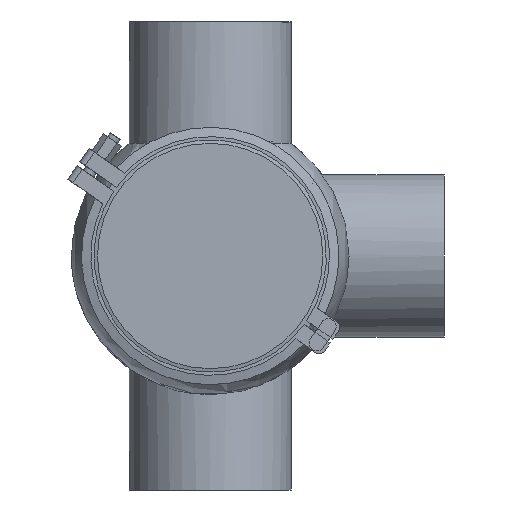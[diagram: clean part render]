
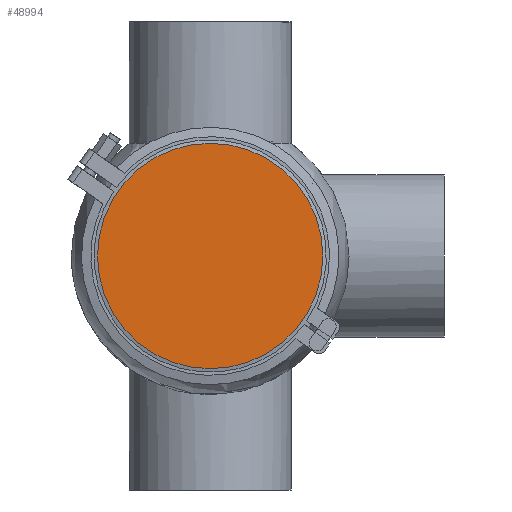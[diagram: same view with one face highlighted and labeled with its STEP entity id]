
A CAD part, front view. The second image highlights one B-rep face of the part: STEP entity #48994.
In plain terms, the highlighted planar face has unit normal (0, -1, 0).
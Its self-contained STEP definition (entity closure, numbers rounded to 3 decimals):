
#2422 = FACE_OUTER_BOUND ( 'NONE', #6077, .T. ) ;
#6077 = EDGE_LOOP ( 'NONE', ( #46484 ) ) ;
#16021 = AXIS2_PLACEMENT_3D ( 'NONE', #40622, #21364, #54876 ) ;
#21364 = DIRECTION ( 'NONE',  ( 0., -1., 0. ) ) ;
#21662 = PLANE ( 'NONE',  #16021 ) ;
#25483 = VERTEX_POINT ( 'NONE', #38866 ) ;
#26667 = CIRCLE ( 'NONE', #61352, 72.25 ) ;
#31874 = DIRECTION ( 'NONE',  ( 0., 0., 1. ) ) ;
#36879 = DIRECTION ( 'NONE',  ( 0., 1., 0. ) ) ;
#38866 = CARTESIAN_POINT ( 'NONE',  ( 0., 0., 72.25 ) ) ;
#40622 = CARTESIAN_POINT ( 'NONE',  ( -72.25, 0., 0. ) ) ;
#46484 = ORIENTED_EDGE ( 'NONE', *, *, #59017, .F. ) ;
#48994 = ADVANCED_FACE ( 'NONE', ( #2422 ), #21662, .T. ) ;
#54876 = DIRECTION ( 'NONE',  ( 0., 0., -1. ) ) ;
#59017 = EDGE_CURVE ( 'NONE', #25483, #25483, #26667, .T. ) ;
#60114 = CARTESIAN_POINT ( 'NONE',  ( 0., 0., 0. ) ) ;
#61352 = AXIS2_PLACEMENT_3D ( 'NONE', #60114, #36879, #31874 ) ;
